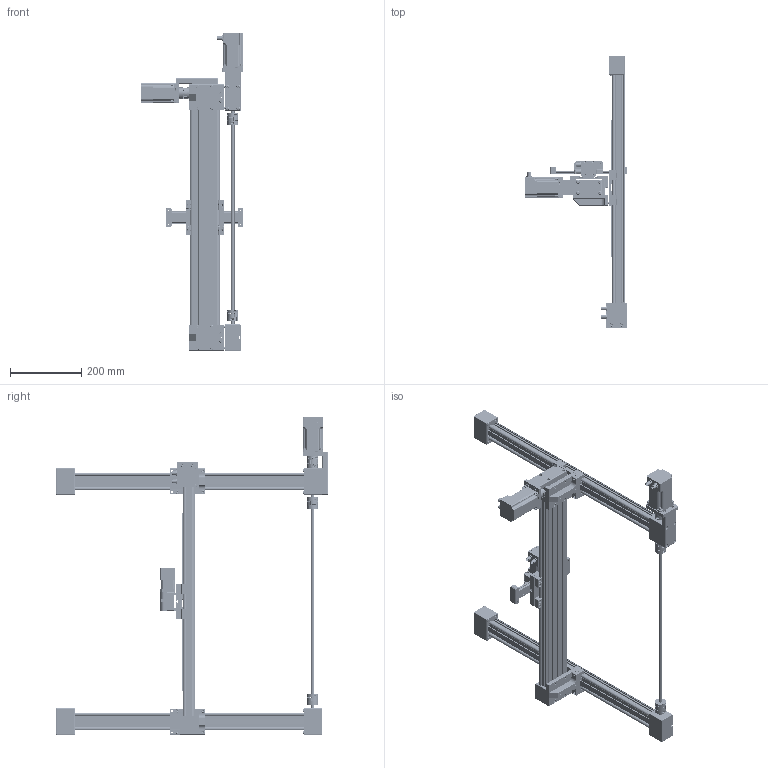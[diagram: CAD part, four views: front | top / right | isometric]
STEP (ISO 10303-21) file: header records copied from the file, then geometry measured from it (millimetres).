
FILE_DESCRIPTION(/* description */ ('Raumportal / room gantry'),/* implementation_level */ '2;1');
FILE_NAME(/* name */ 'I:\Gleitlager\Konstruktion\SERIE NEU (im Aufbau!!)\drylin E\Portale\DLE-RG-XXXX\DLE-RG-0001\DLE-RG-0001.stp',/* time_stamp */ '2018-10-04T12:22:15+02:00',/* author */ ('otreun'),/* organization */ (''),/* preprocessor_version */ 'ST-DEVELOPER v17',/* originating_system */ 'Autodesk Inventor 2018',/* authorisation */ '');
FILE_SCHEMA (('AUTOMOTIVE_DESIGN { 1 0 10303 214 3 1 1 }'));
Products named in the file (84): DLE-RG-0001; ZLW-1040-S-konfig; ZTF-104006; SAXT-104005; ZTF-10400S-R/L-V; SAWT-104003; MK-0107; ZLW-1080-konfig; ZSX-108001; ZTL-108001; ZTZ-108001; ZTY-108001; ZTF-108002; ZTY-108002; ZTZ-108002; ZS-108001; ZSY-108001; MK-0107_1; COU-AR-K-063-100-32-32-B-AAAA; MOT-AN-S-060-020-056-M-C-AAAC; MF-1040-NEMA23-S; ZTY-104004; ZTY-104010; MH-06; NOR-10523; NOR-11003; NOR-20114; AK-0021; SWY-108003; NOR-10617; NOR-20602; NOR-10606; GRW-0630; WSQ-06-301; LT-GRW-0630; STY-063001xxx; NOR-10435; NOR-10228; 1; LW-GRW-0630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
Assembly tree (237 placements, depth 5):
  DLE-RG-0001
    ZLW-1040-S-konfig
      ZSX-104001-konfig
      ZTL-104002
        SAXT-104001
        SAXT-104002
        NOR-10614  x2
        ZTL-10400S-V
          SAWT-104002
          NOR-10412  x4
          NOR-10604  x4
          JTEM-10  x4
          NOR-20901  x2
          ZTY-104035  x2
        ZTZ-104009  x2
      ZS-104001
        ZSY-104001
        WJUM-11-10  x4
          WM-01-10
          JUMO-01-10-S
        NOR-10601  x4
      ZR-104001-konfig
        ZR-104001-XX
        NOR-10703  x2
        ZSY-104002  x2
      ZTF-104006
        SAXT-104005
        SAXT-104002
        NOR-10614  x2
        ZTF-10400S-R/L-V
          JTEM-10  x4
          NOR-20901  x2
          SAWT-104003
          ZTY-104035  x2
        ZTZ-104009  x2
        NOR-10604  x2
      MK-0107
        COU-AR-K-063-100-32-32-B-AAAA
        MOT-AN-S-060-020-056-M-C-AAAC
        MF-1040-NEMA23-S
          ZTY-104004
          ZTY-104010
          MH-06  x2
          NOR-10517  x2
          NOR-10523  x4
          NOR-11003  x4
          NOR-20114  x4
    ZLW-1080-konfig
      ZSX-108001
      ZTL-108001
        ZTZ-108001
        ZTY-108001
        ZTY-104035  x2
        JTEM-10  x4
        NOR-10604  x4
        NOR-10606  x2
        NOR-20901  x2
        NOR-10412  x4
        SAWT-104002
      ZTF-108002
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Bounding box: 288.3 x 761.5 x 890 mm (x, y, z)
Volume: 3541166.5 mm3; surface area: 2115244.7 mm2
Topology: 287 solids, 302 shells, 13091 faces, 35839 edges, 23466 vertices
Faces by surface type: plane 6592, cylinder 4292, cone 1014, torus 520, sphere 340, bspline 333
Full cylindrical faces by diameter (mm): 1 x39, 1.3 x4, 1.8 x36, 2 x36, 2.013 x11, 2.1 x4, 2.459 x13, 2.5 x24, 2.75 x8, 2.8 x12, 2.9 x4, 3 x33, 3.2 x5, 3.242 x28, 3.4 x4, 3.459 x8, 4 x60, 4.018 x8, 4.1 x4, 4.134 x28, 4.2 x16, 4.3 x8, 4.459 x4, 4.5 x8, 4.9 x4, 4.917 x52, 5 x118, 5.5 x56, 5.96 x8, 6 x64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
Entity records: 197315 total; most frequent: CARTESIAN_POINT 40843, ORIENTED_EDGE 31942, DIRECTION 31742, EDGE_CURVE 15971, AXIS2_PLACEMENT_3D 11011, VERTEX_POINT 10617, LINE 9720, VECTOR 9720
